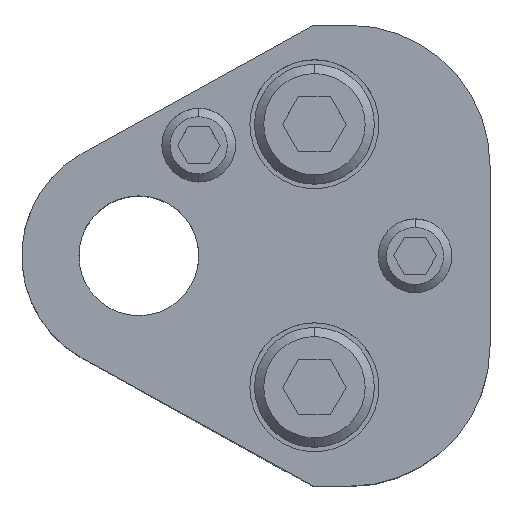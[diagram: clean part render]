
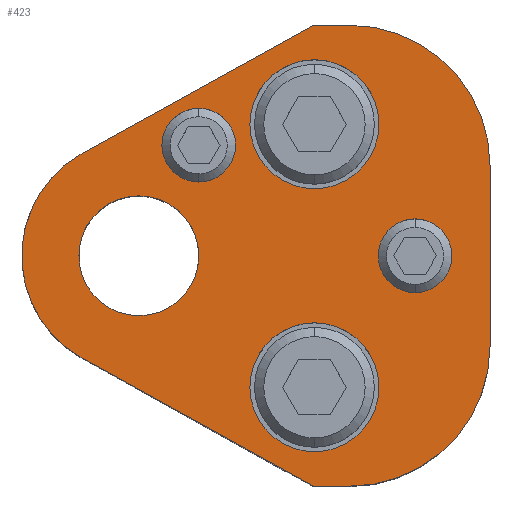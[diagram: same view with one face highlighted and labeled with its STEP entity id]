
A CAD part, top view. The second image highlights one B-rep face of the part: STEP entity #423.
In plain terms, the highlighted planar face has unit normal (0, 0, 1).
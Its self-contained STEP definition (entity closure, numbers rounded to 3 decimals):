
#198=FACE_BOUND('',#745,.T.);
#199=FACE_BOUND('',#746,.T.);
#200=FACE_BOUND('',#747,.T.);
#201=FACE_BOUND('',#748,.T.);
#202=FACE_BOUND('',#749,.T.);
#203=FACE_BOUND('',#750,.T.);
#273=CIRCLE('',#2385,15.2);
#275=CIRCLE('',#2389,15.2);
#277=CIRCLE('',#2394,4.);
#279=CIRCLE('',#2397,4.);
#281=CIRCLE('',#2400,4.);
#283=CIRCLE('',#2403,4.);
#293=CIRCLE('',#2418,12.7);
#294=CIRCLE('',#2419,7.);
#295=CIRCLE('',#2420,7.);
#296=CIRCLE('',#2421,7.);
#297=CIRCLE('',#2422,7.);
#298=CIRCLE('',#2423,6.5);
#299=CIRCLE('',#2424,6.5);
#423=ADVANCED_FACE('',(#198,#199,#200,#201,#202,#203),#519,.T.);
#519=PLANE('',#2425);
#745=EDGE_LOOP('',(#1122,#1123,#1124,#1125,#1126,#1127,#1128,#1129));
#746=EDGE_LOOP('',(#1130,#1131));
#747=EDGE_LOOP('',(#1132,#1133));
#748=EDGE_LOOP('',(#1134,#1135));
#749=EDGE_LOOP('',(#1136,#1137));
#750=EDGE_LOOP('',(#1138,#1139));
#1122=ORIENTED_EDGE('',*,*,#1794,.T.);
#1123=ORIENTED_EDGE('',*,*,#1752,.T.);
#1124=ORIENTED_EDGE('',*,*,#1756,.T.);
#1125=ORIENTED_EDGE('',*,*,#1759,.T.);
#1126=ORIENTED_EDGE('',*,*,#1762,.T.);
#1127=ORIENTED_EDGE('',*,*,#1765,.T.);
#1128=ORIENTED_EDGE('',*,*,#1768,.T.);
#1129=ORIENTED_EDGE('',*,*,#1795,.T.);
#1130=ORIENTED_EDGE('',*,*,#1796,.F.);
#1131=ORIENTED_EDGE('',*,*,#1797,.F.);
#1132=ORIENTED_EDGE('',*,*,#1798,.F.);
#1133=ORIENTED_EDGE('',*,*,#1799,.F.);
#1134=ORIENTED_EDGE('',*,*,#1780,.F.);
#1135=ORIENTED_EDGE('',*,*,#1776,.F.);
#1136=ORIENTED_EDGE('',*,*,#1774,.F.);
#1137=ORIENTED_EDGE('',*,*,#1770,.F.);
#1138=ORIENTED_EDGE('',*,*,#1800,.T.);
#1139=ORIENTED_EDGE('',*,*,#1801,.T.);
#1513=VERTEX_POINT('',#3544);
#1514=VERTEX_POINT('',#3546);
#1517=VERTEX_POINT('',#3553);
#1519=VERTEX_POINT('',#3559);
#1521=VERTEX_POINT('',#3565);
#1523=VERTEX_POINT('',#3571);
#1525=VERTEX_POINT('',#3577);
#1526=VERTEX_POINT('',#3582);
#1527=VERTEX_POINT('',#3583);
#1530=VERTEX_POINT('',#3594);
#1531=VERTEX_POINT('',#3595);
#1542=VERTEX_POINT('',#3630);
#1543=VERTEX_POINT('',#3633);
#1544=VERTEX_POINT('',#3634);
#1545=VERTEX_POINT('',#3637);
#1546=VERTEX_POINT('',#3638);
#1547=VERTEX_POINT('',#3641);
#1548=VERTEX_POINT('',#3642);
#1752=EDGE_CURVE('',#1514,#1513,#2006,.T.);
#1756=EDGE_CURVE('',#1513,#1517,#273,.T.);
#1759=EDGE_CURVE('',#1517,#1519,#2011,.T.);
#1762=EDGE_CURVE('',#1519,#1521,#275,.T.);
#1765=EDGE_CURVE('',#1521,#1523,#2015,.T.);
#1768=EDGE_CURVE('',#1523,#1525,#2018,.T.);
#1770=EDGE_CURVE('',#1526,#1527,#277,.T.);
#1774=EDGE_CURVE('',#1527,#1526,#279,.T.);
#1776=EDGE_CURVE('',#1530,#1531,#281,.T.);
#1780=EDGE_CURVE('',#1531,#1530,#283,.T.);
#1794=EDGE_CURVE('',#1542,#1514,#2028,.T.);
#1795=EDGE_CURVE('',#1525,#1542,#293,.T.);
#1796=EDGE_CURVE('',#1543,#1544,#294,.T.);
#1797=EDGE_CURVE('',#1544,#1543,#295,.T.);
#1798=EDGE_CURVE('',#1545,#1546,#296,.T.);
#1799=EDGE_CURVE('',#1546,#1545,#297,.T.);
#1800=EDGE_CURVE('',#1547,#1548,#298,.T.);
#1801=EDGE_CURVE('',#1548,#1547,#299,.T.);
#2006=LINE('',#3545,#2179);
#2011=LINE('',#3560,#2184);
#2015=LINE('',#3572,#2188);
#2018=LINE('',#3578,#2191);
#2028=LINE('',#3629,#2201);
#2179=VECTOR('',#2815,1.);
#2184=VECTOR('',#2828,1.);
#2188=VECTOR('',#2840,1.);
#2191=VECTOR('',#2845,1.);
#2201=VECTOR('',#2905,1.);
#2385=AXIS2_PLACEMENT_3D('',#3554,#2821,#2822);
#2389=AXIS2_PLACEMENT_3D('',#3566,#2833,#2834);
#2394=AXIS2_PLACEMENT_3D('',#3581,#2849,#2850);
#2397=AXIS2_PLACEMENT_3D('',#3590,#2857,#2858);
#2400=AXIS2_PLACEMENT_3D('',#3593,#2863,#2864);
#2403=AXIS2_PLACEMENT_3D('',#3602,#2871,#2872);
#2418=AXIS2_PLACEMENT_3D('',#3631,#2906,#2907);
#2419=AXIS2_PLACEMENT_3D('',#3632,#2908,#2909);
#2420=AXIS2_PLACEMENT_3D('',#3635,#2910,#2911);
#2421=AXIS2_PLACEMENT_3D('',#3636,#2912,#2913);
#2422=AXIS2_PLACEMENT_3D('',#3639,#2914,#2915);
#2423=AXIS2_PLACEMENT_3D('',#3640,#2916,#2917);
#2424=AXIS2_PLACEMENT_3D('',#3643,#2918,#2919);
#2425=AXIS2_PLACEMENT_3D('',#3644,#2920,#2921);
#2815=DIRECTION('',(1.,0.,0.));
#2821=DIRECTION('',(0.,0.,1.));
#2822=DIRECTION('',(-0.707,0.707,0.));
#2828=DIRECTION('',(0.,1.,0.));
#2833=DIRECTION('',(0.,0.,1.));
#2834=DIRECTION('',(-0.707,-0.707,0.));
#2840=DIRECTION('',(-1.,0.,0.));
#2845=DIRECTION('',(-0.875,-0.485,0.));
#2849=DIRECTION('',(0.,0.,1.));
#2850=DIRECTION('',(-1.,0.,0.));
#2857=DIRECTION('',(0.,0.,1.));
#2858=DIRECTION('',(1.,0.,0.));
#2863=DIRECTION('',(0.,0.,1.));
#2864=DIRECTION('',(-1.,0.,0.));
#2871=DIRECTION('',(0.,0.,1.));
#2872=DIRECTION('',(1.,0.,0.));
#2905=DIRECTION('',(0.875,-0.485,0.));
#2906=DIRECTION('',(0.,0.,1.));
#2907=DIRECTION('',(1.,0.,0.));
#2908=DIRECTION('',(0.,0.,1.));
#2909=DIRECTION('',(1.,0.,0.));
#2910=DIRECTION('',(0.,0.,1.));
#2911=DIRECTION('',(-1.,0.,0.));
#2912=DIRECTION('',(0.,0.,1.));
#2913=DIRECTION('',(1.,0.,0.));
#2914=DIRECTION('',(0.,0.,1.));
#2915=DIRECTION('',(-1.,0.,0.));
#2916=DIRECTION('',(0.,0.,-1.));
#2917=DIRECTION('',(-1.,0.,0.));
#2918=DIRECTION('',(0.,0.,-1.));
#2919=DIRECTION('',(1.,0.,0.));
#2920=DIRECTION('',(0.,0.,1.));
#2921=DIRECTION('',(-0.875,0.485,0.));
#3544=CARTESIAN_POINT('',(22.9,-25.,32.));
#3545=CARTESIAN_POINT('',(18.905,-25.,32.));
#3546=CARTESIAN_POINT('',(18.905,-25.,32.));
#3553=CARTESIAN_POINT('',(38.1,-9.8,32.));
#3554=CARTESIAN_POINT('',(22.9,-9.8,32.));
#3559=CARTESIAN_POINT('',(38.1,9.8,32.));
#3560=CARTESIAN_POINT('',(38.1,9.8,32.));
#3565=CARTESIAN_POINT('',(22.9,25.,32.));
#3566=CARTESIAN_POINT('',(22.9,9.8,32.));
#3571=CARTESIAN_POINT('',(18.905,25.,32.));
#3572=CARTESIAN_POINT('',(18.905,25.,32.));
#3577=CARTESIAN_POINT('',(-6.157,11.108,32.));
#3578=CARTESIAN_POINT('',(18.905,25.,32.));
#3581=CARTESIAN_POINT('',(6.5,12.,32.));
#3582=CARTESIAN_POINT('',(6.5,8.,32.));
#3583=CARTESIAN_POINT('',(6.5,16.,32.));
#3590=CARTESIAN_POINT('',(6.5,12.,32.));
#3593=CARTESIAN_POINT('',(29.97,0.,32.));
#3594=CARTESIAN_POINT('',(29.97,-4.,32.));
#3595=CARTESIAN_POINT('',(29.97,4.,32.));
#3602=CARTESIAN_POINT('',(29.97,0.,32.));
#3629=CARTESIAN_POINT('',(18.905,-25.,32.));
#3630=CARTESIAN_POINT('',(-6.157,-11.108,32.));
#3631=CARTESIAN_POINT('',(0.,0.,32.));
#3632=CARTESIAN_POINT('',(19.05,14.27,32.));
#3633=CARTESIAN_POINT('',(19.05,21.27,32.));
#3634=CARTESIAN_POINT('',(19.05,7.27,32.));
#3635=CARTESIAN_POINT('',(19.05,14.27,32.));
#3636=CARTESIAN_POINT('',(19.05,-14.27,32.));
#3637=CARTESIAN_POINT('',(19.05,-7.27,32.));
#3638=CARTESIAN_POINT('',(19.05,-21.27,32.));
#3639=CARTESIAN_POINT('',(19.05,-14.27,32.));
#3640=CARTESIAN_POINT('',(0.,0.,32.));
#3641=CARTESIAN_POINT('',(0.,6.5,32.));
#3642=CARTESIAN_POINT('',(0.,-6.5,32.));
#3643=CARTESIAN_POINT('',(0.,0.,32.));
#3644=CARTESIAN_POINT('',(-6.157,-11.108,32.));
